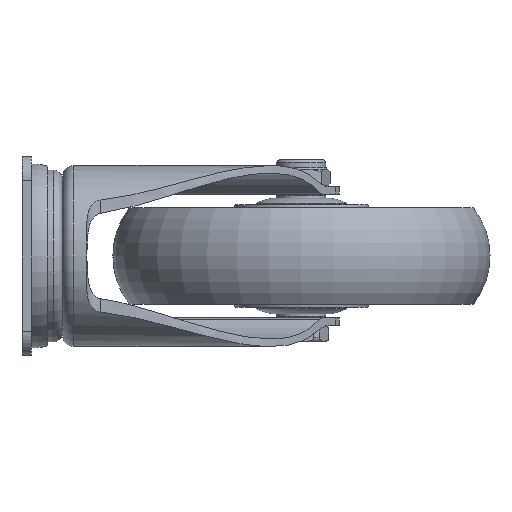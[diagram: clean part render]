
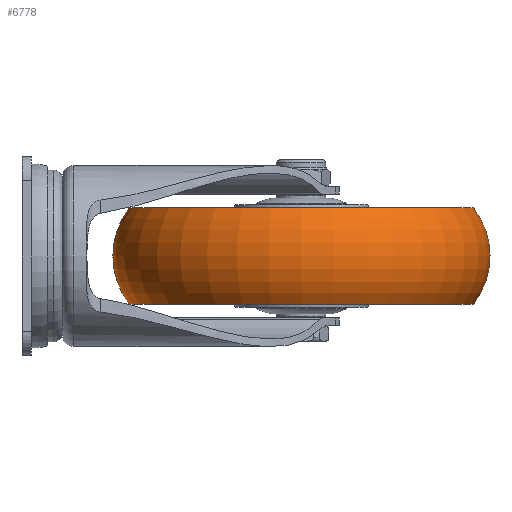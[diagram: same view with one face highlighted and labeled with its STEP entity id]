
A CAD part, left-side view. The second image highlights one B-rep face of the part: STEP entity #6778.
In plain terms, the highlighted toroidal (fillet/blend) face has major radius 36.477 mm and minor radius 26.023 mm.
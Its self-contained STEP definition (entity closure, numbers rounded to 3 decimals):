
#6435 = VERTEX_POINT ( 'NONE', #13061 ) ;
#6436 = VERTEX_POINT ( 'NONE', #13060 ) ;
#6438 = EDGE_CURVE ( 'NONE', #6436, #6443, #13167, .T. ) ;
#6443 = VERTEX_POINT ( 'NONE', #13153 ) ;
#6446 = VERTEX_POINT ( 'NONE', #13147 ) ;
#6653 = EDGE_CURVE ( 'NONE', #6435, #6446, #13530, .T. ) ;
#6742 = ORIENTED_EDGE ( 'NONE', *, *, #6758, .T. ) ;
#6743 = ORIENTED_EDGE ( 'NONE', *, *, #6653, .T. ) ;
#6758 = EDGE_CURVE ( 'NONE', #6436, #6435, #13743, .T. ) ;
#6778 = ADVANCED_FACE ( 'NONE', ( #13846 ), #13845, .T. ) ;
#6779 = EDGE_LOOP ( 'NONE', ( #6780, #6742, #6743, #6792 ) ) ;
#6780 = ORIENTED_EDGE ( 'NONE', *, *, #6438, .F. ) ;
#6792 = ORIENTED_EDGE ( 'NONE', *, *, #6793, .F. ) ;
#6793 = EDGE_CURVE ( 'NONE', #6443, #6446, #13885, .T. ) ;
#13060 = CARTESIAN_POINT ( 'NONE',  ( 0., 16., 57. ) ) ;
#13061 = CARTESIAN_POINT ( 'NONE',  ( 0., 16., -57. ) ) ;
#13147 = CARTESIAN_POINT ( 'NONE',  ( 0., -16., -57. ) ) ;
#13153 = CARTESIAN_POINT ( 'NONE',  ( 0., -16., 57. ) ) ;
#13163 = DIRECTION ( 'NONE',  ( 0., 0., -1. ) ) ;
#13164 = DIRECTION ( 'NONE',  ( 1., 0., 0. ) ) ;
#13165 = CARTESIAN_POINT ( 'NONE',  ( 0., 0., 36.477 ) ) ;
#13166 = AXIS2_PLACEMENT_3D ( 'NONE', #13165, #13164, #13163 ) ;
#13167 = CIRCLE ( 'NONE', #13166, 26.023 ) ;
#13526 = DIRECTION ( 'NONE',  ( 0., 0., 1. ) ) ;
#13527 = DIRECTION ( 'NONE',  ( -1., 0., 0. ) ) ;
#13528 = CARTESIAN_POINT ( 'NONE',  ( 0., 0., -36.477 ) ) ;
#13529 = AXIS2_PLACEMENT_3D ( 'NONE', #13528, #13527, #13526 ) ;
#13530 = CIRCLE ( 'NONE', #13529, 26.023 ) ;
#13739 = DIRECTION ( 'NONE',  ( 0., 0., -1. ) ) ;
#13740 = DIRECTION ( 'NONE',  ( 0., -1., 0. ) ) ;
#13741 = CARTESIAN_POINT ( 'NONE',  ( 0., 16., 0. ) ) ;
#13742 = AXIS2_PLACEMENT_3D ( 'NONE', #13741, #13740, #13739 ) ;
#13743 = CIRCLE ( 'NONE', #13742, 57. ) ;
#13784 = DIRECTION ( 'NONE',  ( 0., 0., -1. ) ) ;
#13785 = DIRECTION ( 'NONE',  ( 0., -1., 0. ) ) ;
#13786 = CARTESIAN_POINT ( 'NONE',  ( 0., -16., 0. ) ) ;
#13787 = AXIS2_PLACEMENT_3D ( 'NONE', #13786, #13785, #13784 ) ;
#13845 = TOROIDAL_SURFACE ( 'NONE', #13962, 36.477, 26.023 ) ;
#13846 = FACE_OUTER_BOUND ( 'NONE', #6779, .T. ) ;
#13851 = CARTESIAN_POINT ( 'NONE',  ( 0., 0., 0. ) ) ;
#13885 = CIRCLE ( 'NONE', #13787, 57. ) ;
#13960 = DIRECTION ( 'NONE',  ( 0., 0., -1. ) ) ;
#13961 = DIRECTION ( 'NONE',  ( 0., -1., 0. ) ) ;
#13962 = AXIS2_PLACEMENT_3D ( 'NONE', #13851, #13961, #13960 ) ;
